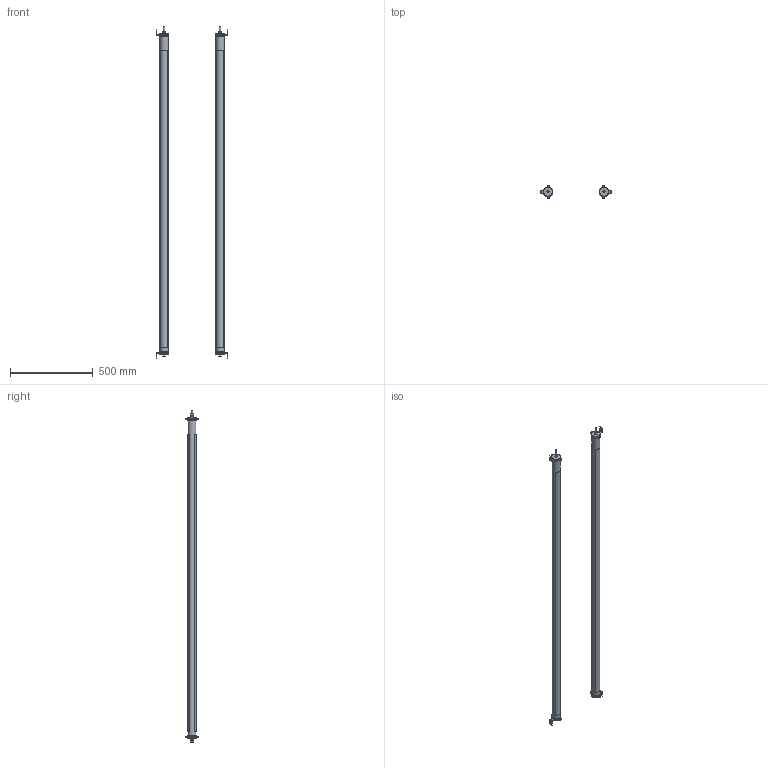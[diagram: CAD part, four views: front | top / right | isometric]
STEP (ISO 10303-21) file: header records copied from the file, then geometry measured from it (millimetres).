
FILE_DESCRIPTION( ( 'STEP AP203' ), ' ' );
FILE_NAME( 'p:/temp/worker_1428/2720_1392/app_47_02018042612354230062369192d056f_000000_00_00_000000/format_0/OY453S.stp', '2018-04-26T10:35:42', ( '' ), ( '' ), ' ', 'PARTsolutions', ' ' );
FILE_SCHEMA( ( 'CONFIG_CONTROL_DESIGN' ) );
Length unit declared in the file: millimetre
Products named in the file (2): OY453S; _OY453S_P1
Assembly tree (2 placements, depth 2):
  OY453S
    _OY453S_P1  x2
Bounding box: 431.6 x 76 x 2010.62 mm (x, y, z)
Volume: 7603451.4 mm3; surface area: 645812.6 mm2
Topology: 2 solids, 2 shells, 374 faces, 940 edges, 624 vertices
Faces by surface type: plane 234, cylinder 116, torus 16, cone 8
Full cylindrical faces by diameter (mm): 4.75 x24, 9 x2, 9.5 x8, 50 x2, 56 x4
Entity records: 5449 total; most frequent: DIRECTION 948, CARTESIAN_POINT 914, ORIENTED_EDGE 848, EDGE_CURVE 424, AXIS2_PLACEMENT_3D 334, VERTEX_POINT 300, LINE 280, VECTOR 280
